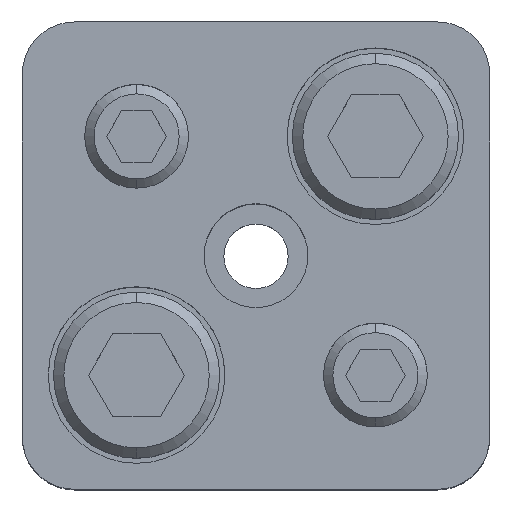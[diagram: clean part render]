
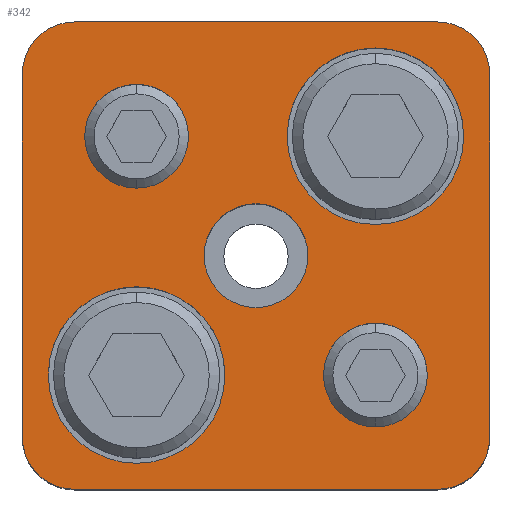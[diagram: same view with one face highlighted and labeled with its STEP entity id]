
A CAD part, top view. The second image highlights one B-rep face of the part: STEP entity #342.
In plain terms, the highlighted planar face has unit normal (0, 0, 1).
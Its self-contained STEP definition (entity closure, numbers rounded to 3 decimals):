
#169=PLANE('',#2888);
#244=FACE_BOUND('',#729,.T.);
#245=FACE_BOUND('',#730,.T.);
#246=FACE_BOUND('',#731,.T.);
#247=FACE_BOUND('',#732,.T.);
#248=FACE_BOUND('',#733,.T.);
#249=FACE_BOUND('',#734,.T.);
#342=ADVANCED_FACE('',(#244,#245,#246,#247,#248,#249),#169,.T.);
#729=EDGE_LOOP('',(#1539,#1540,#1541,#1542,#1543,#1544,#1545,#1546));
#730=EDGE_LOOP('',(#1547,#1548));
#731=EDGE_LOOP('',(#1549,#1550));
#732=EDGE_LOOP('',(#1551,#1552));
#733=EDGE_LOOP('',(#1553,#1554));
#734=EDGE_LOOP('',(#1555,#1556));
#907=LINE('',#4261,#1103);
#908=LINE('',#4265,#1104);
#909=LINE('',#4269,#1105);
#910=LINE('',#4273,#1106);
#1103=VECTOR('',#3427,1.);
#1104=VECTOR('',#3430,1.);
#1105=VECTOR('',#3433,1.);
#1106=VECTOR('',#3436,1.);
#1539=ORIENTED_EDGE('',*,*,#2357,.T.);
#1540=ORIENTED_EDGE('',*,*,#2358,.T.);
#1541=ORIENTED_EDGE('',*,*,#2359,.T.);
#1542=ORIENTED_EDGE('',*,*,#2360,.T.);
#1543=ORIENTED_EDGE('',*,*,#2361,.T.);
#1544=ORIENTED_EDGE('',*,*,#2362,.T.);
#1545=ORIENTED_EDGE('',*,*,#2363,.T.);
#1546=ORIENTED_EDGE('',*,*,#2364,.T.);
#1547=ORIENTED_EDGE('',*,*,#2365,.F.);
#1548=ORIENTED_EDGE('',*,*,#2366,.F.);
#1549=ORIENTED_EDGE('',*,*,#2367,.F.);
#1550=ORIENTED_EDGE('',*,*,#2368,.F.);
#1551=ORIENTED_EDGE('',*,*,#2343,.F.);
#1552=ORIENTED_EDGE('',*,*,#2339,.F.);
#1553=ORIENTED_EDGE('',*,*,#2337,.F.);
#1554=ORIENTED_EDGE('',*,*,#2333,.F.);
#1555=ORIENTED_EDGE('',*,*,#2369,.T.);
#1556=ORIENTED_EDGE('',*,*,#2370,.T.);
#2053=VERTEX_POINT('',#4209);
#2054=VERTEX_POINT('',#4210);
#2057=VERTEX_POINT('',#4222);
#2058=VERTEX_POINT('',#4223);
#2069=VERTEX_POINT('',#4259);
#2070=VERTEX_POINT('',#4260);
#2071=VERTEX_POINT('',#4262);
#2072=VERTEX_POINT('',#4264);
#2073=VERTEX_POINT('',#4266);
#2074=VERTEX_POINT('',#4268);
#2075=VERTEX_POINT('',#4270);
#2076=VERTEX_POINT('',#4272);
#2077=VERTEX_POINT('',#4275);
#2078=VERTEX_POINT('',#4276);
#2079=VERTEX_POINT('',#4279);
#2080=VERTEX_POINT('',#4280);
#2081=VERTEX_POINT('',#4283);
#2082=VERTEX_POINT('',#4284);
#2333=EDGE_CURVE('',#2053,#2054,#2635,.T.);
#2337=EDGE_CURVE('',#2054,#2053,#2637,.T.);
#2339=EDGE_CURVE('',#2057,#2058,#2639,.T.);
#2343=EDGE_CURVE('',#2058,#2057,#2641,.T.);
#2357=EDGE_CURVE('',#2069,#2070,#2651,.T.);
#2358=EDGE_CURVE('',#2070,#2071,#907,.T.);
#2359=EDGE_CURVE('',#2071,#2072,#2652,.T.);
#2360=EDGE_CURVE('',#2072,#2073,#908,.T.);
#2361=EDGE_CURVE('',#2073,#2074,#2653,.T.);
#2362=EDGE_CURVE('',#2074,#2075,#909,.T.);
#2363=EDGE_CURVE('',#2075,#2076,#2654,.T.);
#2364=EDGE_CURVE('',#2076,#2069,#910,.T.);
#2365=EDGE_CURVE('',#2077,#2078,#2655,.T.);
#2366=EDGE_CURVE('',#2078,#2077,#2656,.T.);
#2367=EDGE_CURVE('',#2079,#2080,#2657,.T.);
#2368=EDGE_CURVE('',#2080,#2079,#2658,.T.);
#2369=EDGE_CURVE('',#2081,#2082,#2659,.T.);
#2370=EDGE_CURVE('',#2082,#2081,#2660,.T.);
#2635=CIRCLE('',#2852,5.);
#2637=CIRCLE('',#2855,5.);
#2639=CIRCLE('',#2859,5.);
#2641=CIRCLE('',#2862,5.);
#2651=CIRCLE('',#2878,5.);
#2652=CIRCLE('',#2879,5.);
#2653=CIRCLE('',#2880,5.);
#2654=CIRCLE('',#2881,5.);
#2655=CIRCLE('',#2882,8.5);
#2656=CIRCLE('',#2883,8.5);
#2657=CIRCLE('',#2884,8.5);
#2658=CIRCLE('',#2885,8.5);
#2659=CIRCLE('',#2886,5.);
#2660=CIRCLE('',#2887,5.);
#2852=AXIS2_PLACEMENT_3D('',#4208,#3365,#3366);
#2855=AXIS2_PLACEMENT_3D('',#4217,#3373,#3374);
#2859=AXIS2_PLACEMENT_3D('',#4221,#3381,#3382);
#2862=AXIS2_PLACEMENT_3D('',#4230,#3389,#3390);
#2878=AXIS2_PLACEMENT_3D('',#4258,#3425,#3426);
#2879=AXIS2_PLACEMENT_3D('',#4263,#3428,#3429);
#2880=AXIS2_PLACEMENT_3D('',#4267,#3431,#3432);
#2881=AXIS2_PLACEMENT_3D('',#4271,#3434,#3435);
#2882=AXIS2_PLACEMENT_3D('',#4274,#3437,#3438);
#2883=AXIS2_PLACEMENT_3D('',#4277,#3439,#3440);
#2884=AXIS2_PLACEMENT_3D('',#4278,#3441,#3442);
#2885=AXIS2_PLACEMENT_3D('',#4281,#3443,#3444);
#2886=AXIS2_PLACEMENT_3D('',#4282,#3445,#3446);
#2887=AXIS2_PLACEMENT_3D('',#4285,#3447,#3448);
#2888=AXIS2_PLACEMENT_3D('',#4286,#3449,#3450);
#3365=DIRECTION('',(0.,0.,1.));
#3366=DIRECTION('',(-1.,0.,0.));
#3373=DIRECTION('',(0.,0.,1.));
#3374=DIRECTION('',(1.,0.,0.));
#3381=DIRECTION('',(0.,0.,1.));
#3382=DIRECTION('',(-1.,0.,0.));
#3389=DIRECTION('',(0.,0.,1.));
#3390=DIRECTION('',(1.,0.,0.));
#3425=DIRECTION('',(0.,0.,1.));
#3426=DIRECTION('',(-0.707,0.707,0.));
#3427=DIRECTION('',(0.,1.,0.));
#3428=DIRECTION('',(0.,0.,1.));
#3429=DIRECTION('',(-0.707,-0.707,0.));
#3430=DIRECTION('',(-1.,0.,0.));
#3431=DIRECTION('',(0.,0.,1.));
#3432=DIRECTION('',(0.707,-0.707,0.));
#3433=DIRECTION('',(0.,-1.,0.));
#3434=DIRECTION('',(0.,0.,1.));
#3435=DIRECTION('',(0.707,0.707,0.));
#3436=DIRECTION('',(1.,0.,0.));
#3437=DIRECTION('',(0.,0.,1.));
#3438=DIRECTION('',(1.,0.,0.));
#3439=DIRECTION('',(0.,0.,1.));
#3440=DIRECTION('',(-1.,0.,0.));
#3441=DIRECTION('',(0.,0.,1.));
#3442=DIRECTION('',(1.,0.,0.));
#3443=DIRECTION('',(0.,0.,1.));
#3444=DIRECTION('',(-1.,0.,0.));
#3445=DIRECTION('',(0.,0.,-1.));
#3446=DIRECTION('',(-1.,0.,0.));
#3447=DIRECTION('',(0.,0.,-1.));
#3448=DIRECTION('',(1.,0.,0.));
#3449=DIRECTION('',(0.,0.,1.));
#3450=DIRECTION('',(-1.,0.,0.));
#4208=CARTESIAN_POINT('',(11.5,-11.5,40.));
#4209=CARTESIAN_POINT('',(11.5,-16.5,40.));
#4210=CARTESIAN_POINT('',(11.5,-6.5,40.));
#4217=CARTESIAN_POINT('',(11.5,-11.5,40.));
#4221=CARTESIAN_POINT('',(-11.5,11.5,40.));
#4222=CARTESIAN_POINT('',(-11.5,6.5,40.));
#4223=CARTESIAN_POINT('',(-11.5,16.5,40.));
#4230=CARTESIAN_POINT('',(-11.5,11.5,40.));
#4258=CARTESIAN_POINT('',(17.5,-17.5,40.));
#4259=CARTESIAN_POINT('',(17.5,-22.5,40.));
#4260=CARTESIAN_POINT('',(22.5,-17.5,40.));
#4261=CARTESIAN_POINT('',(22.5,17.5,40.));
#4262=CARTESIAN_POINT('',(22.5,17.5,40.));
#4263=CARTESIAN_POINT('',(17.5,17.5,40.));
#4264=CARTESIAN_POINT('',(17.5,22.5,40.));
#4265=CARTESIAN_POINT('',(-17.5,22.5,40.));
#4266=CARTESIAN_POINT('',(-17.5,22.5,40.));
#4267=CARTESIAN_POINT('',(-17.5,17.5,40.));
#4268=CARTESIAN_POINT('',(-22.5,17.5,40.));
#4269=CARTESIAN_POINT('',(-22.5,17.5,40.));
#4270=CARTESIAN_POINT('',(-22.5,-17.5,40.));
#4271=CARTESIAN_POINT('',(-17.5,-17.5,40.));
#4272=CARTESIAN_POINT('',(-17.5,-22.5,40.));
#4273=CARTESIAN_POINT('',(-17.5,-22.5,40.));
#4274=CARTESIAN_POINT('',(11.5,11.5,40.));
#4275=CARTESIAN_POINT('',(11.5,20.,40.));
#4276=CARTESIAN_POINT('',(11.5,3.,40.));
#4277=CARTESIAN_POINT('',(11.5,11.5,40.));
#4278=CARTESIAN_POINT('',(-11.5,-11.5,40.));
#4279=CARTESIAN_POINT('',(-11.5,-3.,40.));
#4280=CARTESIAN_POINT('',(-11.5,-20.,40.));
#4281=CARTESIAN_POINT('',(-11.5,-11.5,40.));
#4282=CARTESIAN_POINT('',(0.,0.,40.));
#4283=CARTESIAN_POINT('',(0.,5.,40.));
#4284=CARTESIAN_POINT('',(0.,-5.,40.));
#4285=CARTESIAN_POINT('',(0.,0.,40.));
#4286=CARTESIAN_POINT('',(17.5,-22.5,40.));
